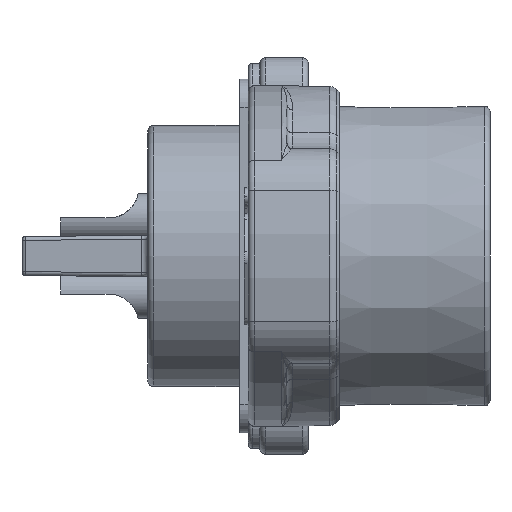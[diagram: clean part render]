
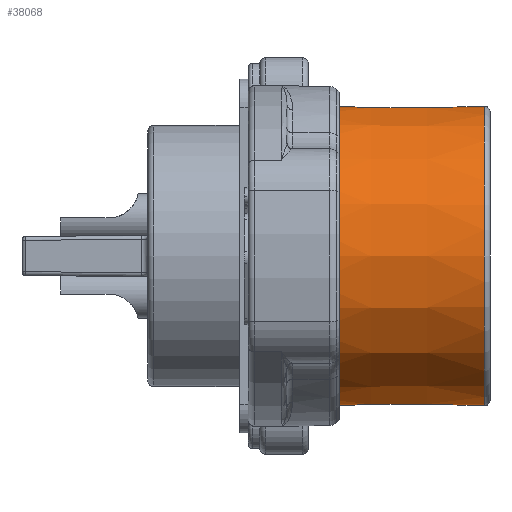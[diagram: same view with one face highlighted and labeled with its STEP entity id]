
A CAD part, front view. The second image highlights one B-rep face of the part: STEP entity #38068.
In plain terms, the highlighted conical face has half-angle 0.3 degrees and reference radius 7.75 mm.
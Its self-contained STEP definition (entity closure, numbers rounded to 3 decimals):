
#341 = FACE_OUTER_BOUND ( 'NONE', #1758, .T. ) ;
#492 = CARTESIAN_POINT ( 'NONE',  ( -9.102, 5.994, 4.988 ) ) ;
#1126 = CIRCLE ( 'NONE', #6414, 7.752 ) ;
#1758 = EDGE_LOOP ( 'NONE', ( #29521, #32202, #28868, #39466 ) ) ;
#2915 = CARTESIAN_POINT ( 'NONE',  ( -9.102, 0., 0. ) ) ;
#3466 = CARTESIAN_POINT ( 'NONE',  ( -0.298, 5.97, -4.945 ) ) ;
#3862 = DIRECTION ( 'NONE',  ( 0., 0., 1. ) ) ;
#5560 = CARTESIAN_POINT ( 'NONE',  ( -0.298, 0., 0. ) ) ;
#6414 = AXIS2_PLACEMENT_3D ( 'NONE', #5560, #37440, #34545 ) ;
#6806 = VERTEX_POINT ( 'NONE', #16002 ) ;
#7303 = CARTESIAN_POINT ( 'NONE',  ( -0.298, 5.97, -4.945 ) ) ;
#9233 = AXIS2_PLACEMENT_3D ( 'NONE', #2915, #25283, #21568 ) ;
#9597 = CARTESIAN_POINT ( 'NONE',  ( -5.034, 5.982, 4.968 ) ) ;
#9674 = CARTESIAN_POINT ( 'NONE',  ( -7.301, 5.989, -4.979 ) ) ;
#10263 = CARTESIAN_POINT ( 'NONE',  ( 0., 0., 0. ) ) ;
#11223 = CARTESIAN_POINT ( 'NONE',  ( -9.102, 5.994, -4.988 ) ) ;
#12065 = EDGE_CURVE ( 'NONE', #31139, #35480, #14502, .T. ) ;
#14502 = CIRCLE ( 'NONE', #9233, 7.798 ) ;
#14730 = EDGE_CURVE ( 'NONE', #35480, #31654, #16825, .T. ) ;
#15619 = CARTESIAN_POINT ( 'NONE',  ( -2.099, 5.975, 4.954 ) ) ;
#15824 = CARTESIAN_POINT ( 'NONE',  ( -7.068, 5.988, 4.978 ) ) ;
#16002 = CARTESIAN_POINT ( 'NONE',  ( -0.298, 5.97, 4.945 ) ) ;
#16825 = B_SPLINE_CURVE_WITH_KNOTS ( 'NONE', 3,
 ( #25424, #19202, #9674, #22325, #31832, #28720, #3466 ),
 .UNSPECIFIED., .F., .F.,
 ( 4, 3, 4 ),
 ( 0., 0.003, 0.009 ),
 .UNSPECIFIED. ) ;
#19183 = DIRECTION ( 'NONE',  ( -1., 0., 0. ) ) ;
#19202 = CARTESIAN_POINT ( 'NONE',  ( -8.201, 5.991, -4.984 ) ) ;
#19320 = B_SPLINE_CURVE_WITH_KNOTS ( 'NONE', 3,
 ( #22443, #35260, #15619, #25349, #9597, #15824, #492 ),
 .UNSPECIFIED., .F., .F.,
 ( 4, 3, 4 ),
 ( 0., 0.003, 0.009 ),
 .UNSPECIFIED. ) ;
#21487 = CARTESIAN_POINT ( 'NONE',  ( -9.102, 5.994, 4.988 ) ) ;
#21568 = DIRECTION ( 'NONE',  ( 0., 0., 1. ) ) ;
#22325 = CARTESIAN_POINT ( 'NONE',  ( -6.4, 5.986, -4.975 ) ) ;
#22443 = CARTESIAN_POINT ( 'NONE',  ( -0.298, 5.97, 4.945 ) ) ;
#25283 = DIRECTION ( 'NONE',  ( 1., 0., 0. ) ) ;
#25349 = CARTESIAN_POINT ( 'NONE',  ( -3., 5.977, 4.958 ) ) ;
#25424 = CARTESIAN_POINT ( 'NONE',  ( -9.102, 5.994, -4.988 ) ) ;
#28720 = CARTESIAN_POINT ( 'NONE',  ( -2.332, 5.975, -4.955 ) ) ;
#28868 = ORIENTED_EDGE ( 'NONE', *, *, #34131, .T. ) ;
#29521 = ORIENTED_EDGE ( 'NONE', *, *, #14730, .T. ) ;
#31139 = VERTEX_POINT ( 'NONE', #21487 ) ;
#31654 = VERTEX_POINT ( 'NONE', #7303 ) ;
#31832 = CARTESIAN_POINT ( 'NONE',  ( -4.366, 5.981, -4.965 ) ) ;
#32202 = ORIENTED_EDGE ( 'NONE', *, *, #33302, .T. ) ;
#33302 = EDGE_CURVE ( 'NONE', #31654, #6806, #1126, .T. ) ;
#34131 = EDGE_CURVE ( 'NONE', #6806, #31139, #19320, .T. ) ;
#34545 = DIRECTION ( 'NONE',  ( 0., 0., -1. ) ) ;
#35260 = CARTESIAN_POINT ( 'NONE',  ( -1.199, 5.972, 4.949 ) ) ;
#35480 = VERTEX_POINT ( 'NONE', #11223 ) ;
#35505 = AXIS2_PLACEMENT_3D ( 'NONE', #10263, #19183, #3862 ) ;
#37440 = DIRECTION ( 'NONE',  ( -1., 0., 0. ) ) ;
#37470 = CONICAL_SURFACE ( 'NONE', #35505, 7.75, 0.005 ) ;
#38068 = ADVANCED_FACE ( 'NONE', ( #341 ), #37470, .T. ) ;
#39466 = ORIENTED_EDGE ( 'NONE', *, *, #12065, .T. ) ;
